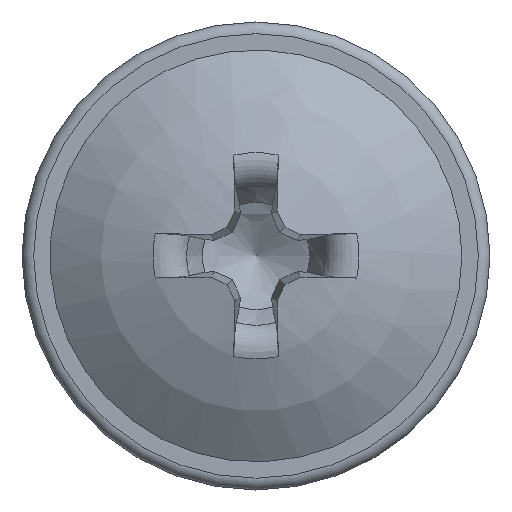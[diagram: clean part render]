
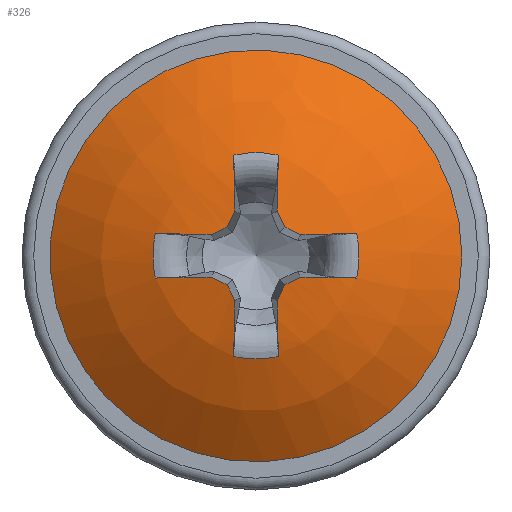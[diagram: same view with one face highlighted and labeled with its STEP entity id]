
A CAD part, top view. The second image highlights one B-rep face of the part: STEP entity #326.
In plain terms, the highlighted spherical face has radius 7.203 mm.
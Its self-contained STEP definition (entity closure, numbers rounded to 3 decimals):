
#295=SPHERICAL_SURFACE('',#1791,7.203);
#306=FACE_BOUND('',#548,.T.);
#307=FACE_BOUND('',#549,.T.);
#326=ADVANCED_FACE('',(#306,#307),#295,.T.);
#548=EDGE_LOOP('',(#720));
#549=EDGE_LOOP('',(#721,#722,#723,#724,#725,#726,#727,#728,#729,#730,#731,
#732,#733,#734,#735,#736,#737,#738,#739,#740));
#669=CIRCLE('',#1770,4.4);
#670=CIRCLE('',#1771,7.201);
#671=CIRCLE('',#1772,2.205);
#672=CIRCLE('',#1773,7.201);
#673=CIRCLE('',#1774,7.203);
#674=CIRCLE('',#1775,7.203);
#675=CIRCLE('',#1776,7.201);
#676=CIRCLE('',#1777,2.205);
#677=CIRCLE('',#1778,7.201);
#678=CIRCLE('',#1779,7.203);
#679=CIRCLE('',#1780,7.203);
#680=CIRCLE('',#1781,7.201);
#681=CIRCLE('',#1782,2.205);
#682=CIRCLE('',#1783,7.201);
#683=CIRCLE('',#1784,7.203);
#684=CIRCLE('',#1785,7.203);
#685=CIRCLE('',#1786,7.201);
#686=CIRCLE('',#1787,2.205);
#687=CIRCLE('',#1788,7.201);
#688=CIRCLE('',#1789,7.203);
#689=CIRCLE('',#1790,7.203);
#720=ORIENTED_EDGE('',*,*,#1387,.T.);
#721=ORIENTED_EDGE('',*,*,#1388,.F.);
#722=ORIENTED_EDGE('',*,*,#1389,.T.);
#723=ORIENTED_EDGE('',*,*,#1390,.F.);
#724=ORIENTED_EDGE('',*,*,#1391,.F.);
#725=ORIENTED_EDGE('',*,*,#1392,.F.);
#726=ORIENTED_EDGE('',*,*,#1393,.F.);
#727=ORIENTED_EDGE('',*,*,#1394,.T.);
#728=ORIENTED_EDGE('',*,*,#1395,.F.);
#729=ORIENTED_EDGE('',*,*,#1396,.F.);
#730=ORIENTED_EDGE('',*,*,#1397,.F.);
#731=ORIENTED_EDGE('',*,*,#1398,.F.);
#732=ORIENTED_EDGE('',*,*,#1399,.T.);
#733=ORIENTED_EDGE('',*,*,#1400,.F.);
#734=ORIENTED_EDGE('',*,*,#1401,.F.);
#735=ORIENTED_EDGE('',*,*,#1402,.F.);
#736=ORIENTED_EDGE('',*,*,#1403,.F.);
#737=ORIENTED_EDGE('',*,*,#1404,.T.);
#738=ORIENTED_EDGE('',*,*,#1405,.F.);
#739=ORIENTED_EDGE('',*,*,#1406,.F.);
#740=ORIENTED_EDGE('',*,*,#1407,.F.);
#1230=VERTEX_POINT('',#2358);
#1231=VERTEX_POINT('',#2360);
#1232=VERTEX_POINT('',#2361);
#1233=VERTEX_POINT('',#2363);
#1234=VERTEX_POINT('',#2365);
#1235=VERTEX_POINT('',#2367);
#1236=VERTEX_POINT('',#2369);
#1237=VERTEX_POINT('',#2371);
#1238=VERTEX_POINT('',#2373);
#1239=VERTEX_POINT('',#2375);
#1240=VERTEX_POINT('',#2377);
#1241=VERTEX_POINT('',#2379);
#1242=VERTEX_POINT('',#2381);
#1243=VERTEX_POINT('',#2383);
#1244=VERTEX_POINT('',#2385);
#1245=VERTEX_POINT('',#2387);
#1246=VERTEX_POINT('',#2389);
#1247=VERTEX_POINT('',#2391);
#1248=VERTEX_POINT('',#2393);
#1249=VERTEX_POINT('',#2395);
#1250=VERTEX_POINT('',#2397);
#1387=EDGE_CURVE('',#1230,#1230,#669,.T.);
#1388=EDGE_CURVE('',#1231,#1232,#670,.T.);
#1389=EDGE_CURVE('',#1231,#1233,#671,.T.);
#1390=EDGE_CURVE('',#1234,#1233,#672,.T.);
#1391=EDGE_CURVE('',#1235,#1234,#673,.T.);
#1392=EDGE_CURVE('',#1236,#1235,#674,.T.);
#1393=EDGE_CURVE('',#1237,#1236,#675,.T.);
#1394=EDGE_CURVE('',#1237,#1238,#676,.T.);
#1395=EDGE_CURVE('',#1239,#1238,#677,.T.);
#1396=EDGE_CURVE('',#1240,#1239,#678,.T.);
#1397=EDGE_CURVE('',#1241,#1240,#679,.T.);
#1398=EDGE_CURVE('',#1242,#1241,#680,.T.);
#1399=EDGE_CURVE('',#1242,#1243,#681,.T.);
#1400=EDGE_CURVE('',#1244,#1243,#682,.T.);
#1401=EDGE_CURVE('',#1245,#1244,#683,.T.);
#1402=EDGE_CURVE('',#1246,#1245,#684,.T.);
#1403=EDGE_CURVE('',#1247,#1246,#685,.T.);
#1404=EDGE_CURVE('',#1247,#1248,#686,.T.);
#1405=EDGE_CURVE('',#1249,#1248,#687,.T.);
#1406=EDGE_CURVE('',#1250,#1249,#688,.T.);
#1407=EDGE_CURVE('',#1232,#1250,#689,.T.);
#1770=AXIS2_PLACEMENT_3D('',#2357,#1855,#1856);
#1771=AXIS2_PLACEMENT_3D('',#2359,#1857,#1858);
#1772=AXIS2_PLACEMENT_3D('',#2362,#1859,#1860);
#1773=AXIS2_PLACEMENT_3D('',#2364,#1861,#1862);
#1774=AXIS2_PLACEMENT_3D('',#2366,#1863,#1864);
#1775=AXIS2_PLACEMENT_3D('',#2368,#1865,#1866);
#1776=AXIS2_PLACEMENT_3D('',#2370,#1867,#1868);
#1777=AXIS2_PLACEMENT_3D('',#2372,#1869,#1870);
#1778=AXIS2_PLACEMENT_3D('',#2374,#1871,#1872);
#1779=AXIS2_PLACEMENT_3D('',#2376,#1873,#1874);
#1780=AXIS2_PLACEMENT_3D('',#2378,#1875,#1876);
#1781=AXIS2_PLACEMENT_3D('',#2380,#1877,#1878);
#1782=AXIS2_PLACEMENT_3D('',#2382,#1879,#1880);
#1783=AXIS2_PLACEMENT_3D('',#2384,#1881,#1882);
#1784=AXIS2_PLACEMENT_3D('',#2386,#1883,#1884);
#1785=AXIS2_PLACEMENT_3D('',#2388,#1885,#1886);
#1786=AXIS2_PLACEMENT_3D('',#2390,#1887,#1888);
#1787=AXIS2_PLACEMENT_3D('',#2392,#1889,#1890);
#1788=AXIS2_PLACEMENT_3D('',#2394,#1891,#1892);
#1789=AXIS2_PLACEMENT_3D('',#2396,#1893,#1894);
#1790=AXIS2_PLACEMENT_3D('',#2398,#1895,#1896);
#1791=AXIS2_PLACEMENT_3D('',#2399,#1897,#1898);
#1855=DIRECTION('',(0.,0.,1.));
#1856=DIRECTION('',(1.,0.,0.));
#1857=DIRECTION('',(-0.996,-0.035,0.087));
#1858=DIRECTION('',(0.087,0.,0.996));
#1859=DIRECTION('',(0.,0.,-1.));
#1860=DIRECTION('',(-1.,0.,0.));
#1861=DIRECTION('',(0.996,-0.035,0.087));
#1862=DIRECTION('',(0.087,0.,-0.996));
#1863=DIRECTION('',(0.902,0.42,0.1));
#1864=DIRECTION('',(-0.423,0.906,0.));
#1865=DIRECTION('',(0.42,0.902,0.1));
#1866=DIRECTION('',(-0.906,0.423,0.));
#1867=DIRECTION('',(-0.035,0.996,0.087));
#1868=DIRECTION('',(0.,-0.087,0.996));
#1869=DIRECTION('',(0.,0.,-1.));
#1870=DIRECTION('',(-1.,0.,0.));
#1871=DIRECTION('',(-0.035,-0.996,0.087));
#1872=DIRECTION('',(0.,-0.087,-0.996));
#1873=DIRECTION('',(0.42,-0.902,0.1));
#1874=DIRECTION('',(0.906,0.423,0.));
#1875=DIRECTION('',(0.902,-0.42,0.1));
#1876=DIRECTION('',(0.423,0.906,0.));
#1877=DIRECTION('',(0.996,0.035,0.087));
#1878=DIRECTION('',(0.087,0.,-0.996));
#1879=DIRECTION('',(0.,0.,-1.));
#1880=DIRECTION('',(-1.,0.,0.));
#1881=DIRECTION('',(-0.996,0.035,0.087));
#1882=DIRECTION('',(0.087,0.,0.996));
#1883=DIRECTION('',(-0.902,-0.42,0.1));
#1884=DIRECTION('',(0.423,-0.906,0.));
#1885=DIRECTION('',(-0.42,-0.902,0.1));
#1886=DIRECTION('',(0.906,-0.423,0.));
#1887=DIRECTION('',(0.035,-0.996,0.087));
#1888=DIRECTION('',(0.,-0.087,-0.996));
#1889=DIRECTION('',(0.,0.,-1.));
#1890=DIRECTION('',(-1.,0.,0.));
#1891=DIRECTION('',(0.035,0.996,0.087));
#1892=DIRECTION('',(0.,-0.087,0.996));
#1893=DIRECTION('',(-0.42,0.902,0.1));
#1894=DIRECTION('',(-0.906,-0.423,0.));
#1895=DIRECTION('',(-0.902,0.42,0.1));
#1896=DIRECTION('',(-0.423,-0.906,0.));
#1897=DIRECTION('',(0.,0.,1.));
#1898=DIRECTION('',(0.,1.,0.));
#2357=CARTESIAN_POINT('',(0.,0.,1.));
#2358=CARTESIAN_POINT('',(4.4,0.,1.));
#2359=CARTESIAN_POINT('',(-0.2,-0.007,-4.686));
#2360=CARTESIAN_POINT('',(0.473,-2.154,2.154));
#2361=CARTESIAN_POINT('',(0.455,-0.957,2.422));
#2362=CARTESIAN_POINT('',(0.,0.,2.154));
#2363=CARTESIAN_POINT('',(-0.473,-2.154,2.154));
#2364=CARTESIAN_POINT('',(0.2,-0.007,-4.686));
#2365=CARTESIAN_POINT('',(-0.455,-0.957,2.422));
#2366=CARTESIAN_POINT('',(-0.089,-0.042,-4.713));
#2367=CARTESIAN_POINT('',(-0.616,-0.616,2.447));
#2368=CARTESIAN_POINT('',(-0.042,-0.089,-4.713));
#2369=CARTESIAN_POINT('',(-0.957,-0.455,2.422));
#2370=CARTESIAN_POINT('',(-0.007,0.2,-4.686));
#2371=CARTESIAN_POINT('',(-2.154,-0.473,2.154));
#2372=CARTESIAN_POINT('',(0.,0.,2.154));
#2373=CARTESIAN_POINT('',(-2.154,0.473,2.154));
#2374=CARTESIAN_POINT('',(-0.007,-0.2,-4.686));
#2375=CARTESIAN_POINT('',(-0.957,0.455,2.422));
#2376=CARTESIAN_POINT('',(-0.042,0.089,-4.713));
#2377=CARTESIAN_POINT('',(-0.616,0.616,2.447));
#2378=CARTESIAN_POINT('',(-0.089,0.042,-4.713));
#2379=CARTESIAN_POINT('',(-0.455,0.957,2.422));
#2380=CARTESIAN_POINT('',(0.2,0.007,-4.686));
#2381=CARTESIAN_POINT('',(-0.473,2.154,2.154));
#2382=CARTESIAN_POINT('',(0.,0.,2.154));
#2383=CARTESIAN_POINT('',(0.473,2.154,2.154));
#2384=CARTESIAN_POINT('',(-0.2,0.007,-4.686));
#2385=CARTESIAN_POINT('',(0.455,0.957,2.422));
#2386=CARTESIAN_POINT('',(0.089,0.042,-4.713));
#2387=CARTESIAN_POINT('',(0.616,0.616,2.447));
#2388=CARTESIAN_POINT('',(0.042,0.089,-4.713));
#2389=CARTESIAN_POINT('',(0.957,0.455,2.422));
#2390=CARTESIAN_POINT('',(0.007,-0.2,-4.686));
#2391=CARTESIAN_POINT('',(2.154,0.473,2.154));
#2392=CARTESIAN_POINT('',(0.,0.,2.154));
#2393=CARTESIAN_POINT('',(2.154,-0.473,2.154));
#2394=CARTESIAN_POINT('',(0.007,0.2,-4.686));
#2395=CARTESIAN_POINT('',(0.957,-0.455,2.422));
#2396=CARTESIAN_POINT('',(0.042,-0.089,-4.713));
#2397=CARTESIAN_POINT('',(0.616,-0.616,2.447));
#2398=CARTESIAN_POINT('',(0.089,-0.042,-4.713));
#2399=CARTESIAN_POINT('',(0.,0.,-4.703));
